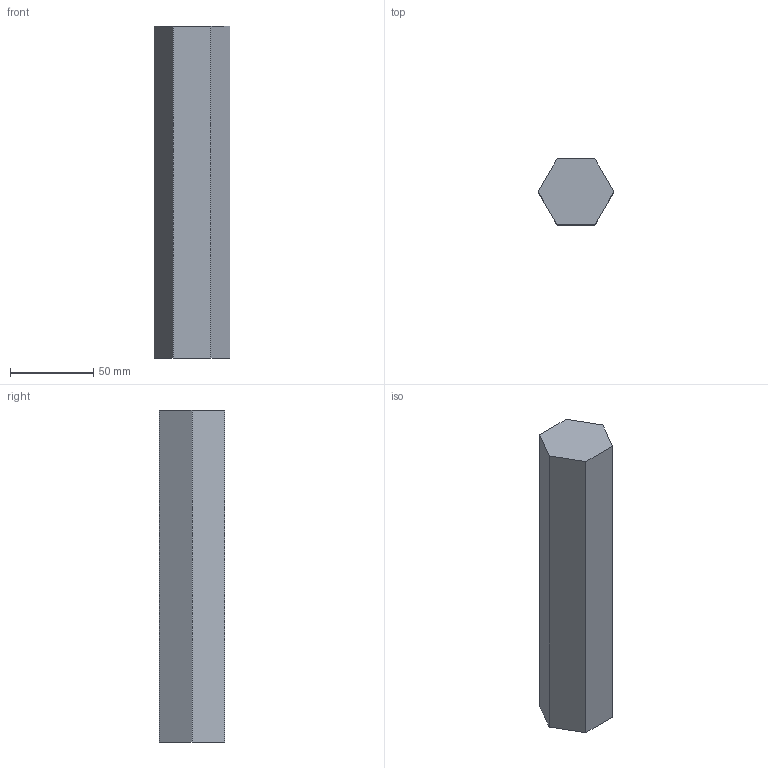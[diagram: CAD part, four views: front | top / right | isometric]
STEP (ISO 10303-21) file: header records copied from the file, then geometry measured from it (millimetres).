
FILE_DESCRIPTION(('Mechanical CAD reference from nasji.com'),'2;1');
FILE_NAME('NASJI.step','',(''),(''),'','NASJI distribution','');
FILE_SCHEMA(('AUTOMOTIVE_DESIGN { 1 0 10303 214 1 1 1 1 }'));
Length unit declared in the file: millimetre
Products named in the file (1): Open CASCADE STEP translator 7.8 232
Bounding box: 45.7 x 39.58 x 200 mm (x, y, z)
Volume: 271302.8 mm3; surface area: 30133 mm2
Topology: 1 solids, 1 shells, 8 faces, 18 edges, 12 vertices
Faces by surface type: plane 8
Entity records: 466 total; most frequent: CARTESIAN_POINT 75, DIRECTION 72, LINE 54, VECTOR 54, ORIENTED_EDGE 36, PCURVE 36, DEFINITIONAL_REPRESENTATION 36, EDGE_CURVE 18
